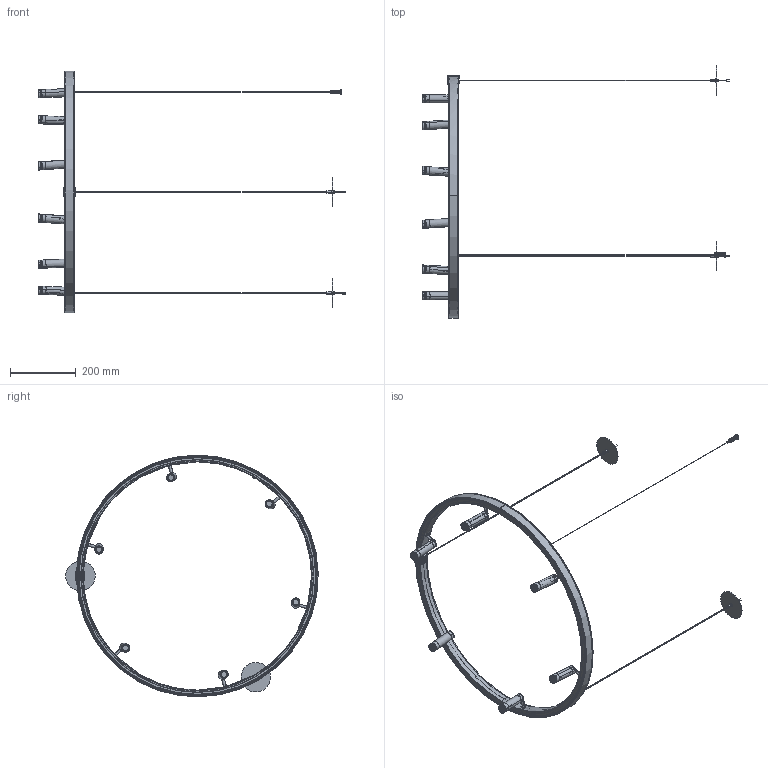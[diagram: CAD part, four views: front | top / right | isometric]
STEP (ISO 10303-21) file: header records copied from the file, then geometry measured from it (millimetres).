
FILE_DESCRIPTION (( 'STEP AP214' ), '1' );
FILE_NAME ('SPACE25_Ø700.STEP', '2024-05-29T15:19:52', ( '' ), ( '' ), 'SwSTEP 2.0', 'SolidWorks 2024', '' );
FILE_SCHEMA (( 'AUTOMOTIVE_DESIGN' ));
Length unit declared in the file: millimetre
Products named in the file (1): SPACE25_Ø700
Bounding box: 937.03 x 770.14 x 737.28 mm (x, y, z)
Volume: 657586.1 mm3; surface area: 670416.4 mm2
Topology: 46 solids, 48 shells, 3913 faces, 9974 edges, 6114 vertices
Faces by surface type: cylinder 1164, plane 1066, bspline 686, cone 616, torus 333, sphere 48
Entity records: 246435 total; most frequent: CARTESIAN_POINT 158985, ORIENTED_EDGE 19648, DIRECTION 16808, EDGE_CURVE 9824, AXIS2_PLACEMENT_3D 6552, VERTEX_POINT 6108, EDGE_LOOP 4220, FACE_OUTER_BOUND 3913
